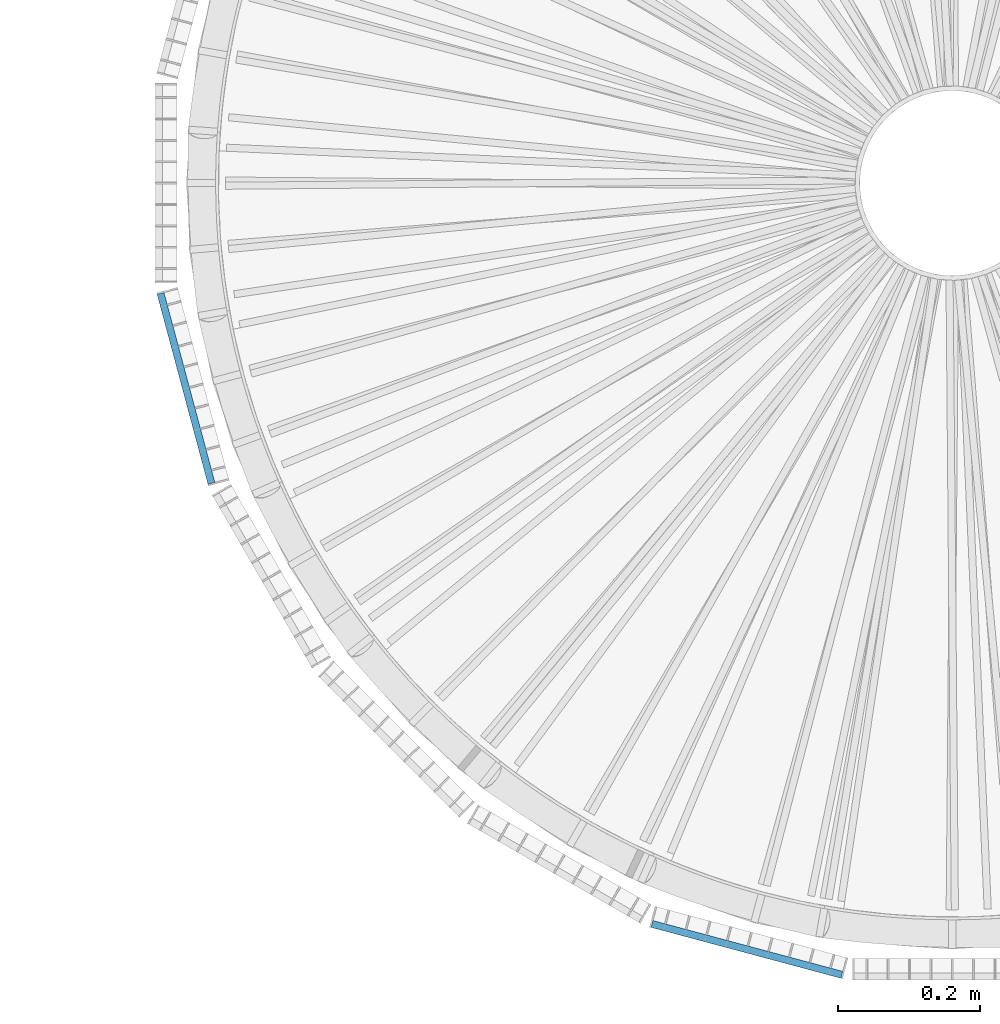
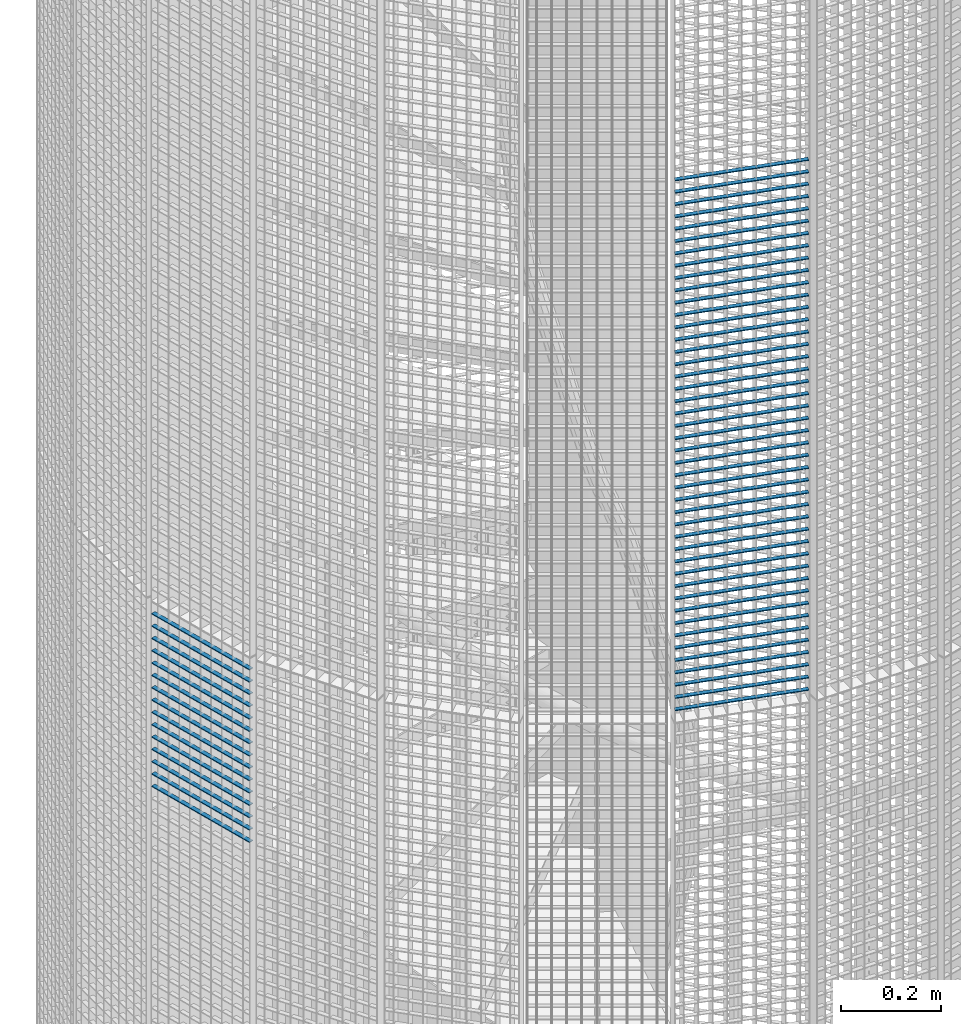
# One storey, part 378 of 1183: 59 beams, 2 elements without a shape of their own.
"""IFC2X3 building model written with IfcOpenShell, lengths in millimetres."""

from ifc_helpers import new_model, si_unit, frame, origin_with_axes, origin_2d_with_axis, place, context, subcontext, project, spatial, rectangle, extrude, material, type_object, element, aggregate, save


model = new_model("IFC2X3")

# Units and contexts
model_context = context("Model", 3, precision=1e-05, world=origin_with_axes())
body_context = subcontext(model_context, "Body", "Model", "MODEL_VIEW")
ifc_project = project(units=[si_unit("LENGTHUNIT", "METRE", prefix="MILLI"), si_unit("AREAUNIT", "SQUARE_METRE"), si_unit("VOLUMEUNIT", "CUBIC_METRE"), si_unit("MASSUNIT", "GRAM", prefix="KILO"), si_unit("TIMEUNIT", "SECOND"), si_unit("PLANEANGLEUNIT", "RADIAN"), si_unit("SOLIDANGLEUNIT", "STERADIAN"), si_unit("THERMODYNAMICTEMPERATUREUNIT", "DEGREE_CELSIUS"), si_unit("LUMINOUSINTENSITYUNIT", "LUMEN")], contexts=[model_context])

# Site, building, storey
site_placement = place(None, origin_with_axes())
site = spatial("IfcSite", under=ifc_project, at=site_placement, Name="Undefined", CompositionType="ELEMENT")
building_placement = place(site_placement, origin_with_axes())
building = spatial("IfcBuilding", under=site, at=building_placement, Name="Undefined", CompositionType="ELEMENT")
storey_placement = place(building_placement, origin_with_axes())
storey = spatial("IfcBuildingStorey", under=building, at=storey_placement, Name="Undefined", CompositionType="ELEMENT", Elevation=0.0)

# Assembly, beams
assembly_1_placement = place(storey_placement, origin_with_axes())
assembly_1 = element("IfcElementAssembly", 1, at=assembly_1_placement, inside=storey, Name="BORDURE", AssemblyPlace="NOTDEFINED", PredefinedType="NOTDEFINED")
ifc_material = material(Name="STEEL/S235JR")
beam_type = type_object("IfcBeamType", Name="PL2*10", PredefinedType="NOTDEFINED")
beam_1_placement = place(assembly_1_placement, frame((21445.1040732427, -1111.25508286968, 4320.0), z_axis=(-0.258819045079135, -0.965925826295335, 0.0), x_axis=(-0.965925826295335, 0.258819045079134, 0.0)))
beam_1 = element("IfcBeam", 2, at=beam_1_placement, type_object=beam_type, material=ifc_material, Name="ENTRETOISE", context=body_context, shape_type="SweptSolid", body=[
    extrude(rectangle(XDim=2.0, YDim=10.0, at=origin_2d_with_axis()), frame((275.999999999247, 9.09494701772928e-13, 1.53210777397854e-14), z_axis=(-1.0, 0.0, 0.0), x_axis=(0.0, -1.0, 0.0)), (0.0, 0.0, 1.0), 276.0),
])
beam_2_placement = place(assembly_1_placement, frame((21445.1040732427, -1111.25508286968, 4290.0), z_axis=(-0.258819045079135, -0.965925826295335, 0.0), x_axis=(-0.965925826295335, 0.258819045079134, 0.0)))
beam_2 = element("IfcBeam", 3, at=beam_2_placement, type_object=beam_type, material=ifc_material, Name="ENTRETOISE", context=body_context, shape_type="SweptSolid", body=[
    extrude(rectangle(XDim=2.0, YDim=10.0, at=origin_2d_with_axis()), frame((275.999999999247, 9.09494701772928e-13, 1.53210777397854e-14), z_axis=(-1.0, 0.0, 0.0), x_axis=(0.0, -1.0, 0.0)), (0.0, 0.0, 1.0), 276.0),
])
beam_3_placement = place(assembly_1_placement, frame((21445.1040732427, -1111.25508286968, 4260.0), z_axis=(-0.258819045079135, -0.965925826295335, 0.0), x_axis=(-0.965925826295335, 0.258819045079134, 0.0)))
beam_3 = element("IfcBeam", 4, at=beam_3_placement, type_object=beam_type, material=ifc_material, Name="ENTRETOISE", context=body_context, shape_type="SweptSolid", body=[
    extrude(rectangle(XDim=2.0, YDim=10.0, at=origin_2d_with_axis()), frame((275.999999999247, 9.09494701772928e-13, 1.53210777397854e-14), z_axis=(-1.0, 0.0, 0.0), x_axis=(0.0, -1.0, 0.0)), (0.0, 0.0, 1.0), 276.0),
])
beam_4_placement = place(assembly_1_placement, frame((21445.1040732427, -1111.25508286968, 4230.0), z_axis=(-0.258819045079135, -0.965925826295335, 0.0), x_axis=(-0.965925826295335, 0.258819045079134, 0.0)))
beam_4 = element("IfcBeam", 5, at=beam_4_placement, type_object=beam_type, material=ifc_material, Name="ENTRETOISE", context=body_context, shape_type="SweptSolid", body=[
    extrude(rectangle(XDim=2.0, YDim=10.0, at=origin_2d_with_axis()), frame((275.999999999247, 9.09494701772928e-13, 1.53210777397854e-14), z_axis=(-1.0, 0.0, 0.0), x_axis=(0.0, -1.0, 0.0)), (0.0, 0.0, 1.0), 276.0),
])
beam_5_placement = place(assembly_1_placement, frame((21445.1040732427, -1111.25508286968, 4200.0), z_axis=(-0.258819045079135, -0.965925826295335, 0.0), x_axis=(-0.965925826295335, 0.258819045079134, 0.0)))
beam_5 = element("IfcBeam", 6, at=beam_5_placement, type_object=beam_type, material=ifc_material, Name="ENTRETOISE", context=body_context, shape_type="SweptSolid", body=[
    extrude(rectangle(XDim=2.0, YDim=10.0, at=origin_2d_with_axis()), frame((275.999999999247, 9.09494701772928e-13, 1.53210777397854e-14), z_axis=(-1.0, 0.0, 0.0), x_axis=(0.0, -1.0, 0.0)), (0.0, 0.0, 1.0), 276.0),
])
beam_6_placement = place(assembly_1_placement, frame((21445.1040732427, -1111.25508286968, 4170.0), z_axis=(-0.258819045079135, -0.965925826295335, 0.0), x_axis=(-0.965925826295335, 0.258819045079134, 0.0)))
beam_6 = element("IfcBeam", 7, at=beam_6_placement, type_object=beam_type, material=ifc_material, Name="ENTRETOISE", context=body_context, shape_type="SweptSolid", body=[
    extrude(rectangle(XDim=2.0, YDim=10.0, at=origin_2d_with_axis()), frame((275.999999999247, 9.09494701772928e-13, 1.53210777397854e-14), z_axis=(-1.0, 0.0, 0.0), x_axis=(0.0, -1.0, 0.0)), (0.0, 0.0, 1.0), 276.0),
])
beam_7_placement = place(assembly_1_placement, frame((21445.1040732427, -1111.25508286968, 4140.0), z_axis=(-0.258819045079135, -0.965925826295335, 0.0), x_axis=(-0.965925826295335, 0.258819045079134, 0.0)))
beam_7 = element("IfcBeam", 8, at=beam_7_placement, type_object=beam_type, material=ifc_material, Name="ENTRETOISE", context=body_context, shape_type="SweptSolid", body=[
    extrude(rectangle(XDim=2.0, YDim=10.0, at=origin_2d_with_axis()), frame((275.999999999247, 9.09494701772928e-13, 1.53210777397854e-14), z_axis=(-1.0, 0.0, 0.0), x_axis=(0.0, -1.0, 0.0)), (0.0, 0.0, 1.0), 276.0),
])
beam_8_placement = place(assembly_1_placement, frame((21445.1040732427, -1111.25508286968, 3720.0), z_axis=(-0.258819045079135, -0.965925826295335, 0.0), x_axis=(-0.965925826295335, 0.258819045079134, 0.0)))
beam_8 = element("IfcBeam", 9, at=beam_8_placement, type_object=beam_type, material=ifc_material, Name="ENTRETOISE", context=body_context, shape_type="SweptSolid", body=[
    extrude(rectangle(XDim=2.0, YDim=10.0, at=origin_2d_with_axis()), frame((275.999999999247, 9.09494701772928e-13, 1.53210777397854e-14), z_axis=(-1.0, 0.0, 0.0), x_axis=(0.0, -1.0, 0.0)), (0.0, 0.0, 1.0), 276.0),
])
beam_9_placement = place(assembly_1_placement, frame((21445.1040732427, -1111.25508286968, 3690.0), z_axis=(-0.258819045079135, -0.965925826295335, 0.0), x_axis=(-0.965925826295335, 0.258819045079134, 0.0)))
beam_9 = element("IfcBeam", 10, at=beam_9_placement, type_object=beam_type, material=ifc_material, Name="ENTRETOISE", context=body_context, shape_type="SweptSolid", body=[
    extrude(rectangle(XDim=2.0, YDim=10.0, at=origin_2d_with_axis()), frame((275.999999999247, 9.09494701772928e-13, 1.53210777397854e-14), z_axis=(-1.0, 0.0, 0.0), x_axis=(0.0, -1.0, 0.0)), (0.0, 0.0, 1.0), 276.0),
])
beam_10_placement = place(assembly_1_placement, frame((21445.1040732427, -1111.25508286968, 3750.0), z_axis=(-0.258819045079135, -0.965925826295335, 0.0), x_axis=(-0.965925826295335, 0.258819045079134, 0.0)))
beam_10 = element("IfcBeam", 11, at=beam_10_placement, type_object=beam_type, material=ifc_material, Name="ENTRETOISE", context=body_context, shape_type="SweptSolid", body=[
    extrude(rectangle(XDim=2.0, YDim=10.0, at=origin_2d_with_axis()), frame((275.999999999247, 9.09494701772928e-13, 1.53210777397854e-14), z_axis=(-1.0, 0.0, 0.0), x_axis=(0.0, -1.0, 0.0)), (0.0, 0.0, 1.0), 276.0),
])
beam_11_placement = place(assembly_1_placement, frame((21445.1040732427, -1111.25508286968, 3660.0), z_axis=(-0.258819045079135, -0.965925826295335, 0.0), x_axis=(-0.965925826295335, 0.258819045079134, 0.0)))
beam_11 = element("IfcBeam", 12, at=beam_11_placement, type_object=beam_type, material=ifc_material, Name="ENTRETOISE", context=body_context, shape_type="SweptSolid", body=[
    extrude(rectangle(XDim=2.0, YDim=10.0, at=origin_2d_with_axis()), frame((275.999999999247, 9.09494701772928e-13, 1.53210777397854e-14), z_axis=(-1.0, 0.0, 0.0), x_axis=(0.0, -1.0, 0.0)), (0.0, 0.0, 1.0), 276.0),
])
beam_12_placement = place(assembly_1_placement, frame((21445.1040732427, -1111.25508286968, 3630.0), z_axis=(-0.258819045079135, -0.965925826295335, 0.0), x_axis=(-0.965925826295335, 0.258819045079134, 0.0)))
beam_12 = element("IfcBeam", 13, at=beam_12_placement, type_object=beam_type, material=ifc_material, Name="ENTRETOISE", context=body_context, shape_type="SweptSolid", body=[
    extrude(rectangle(XDim=2.0, YDim=10.0, at=origin_2d_with_axis()), frame((275.999999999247, 9.09494701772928e-13, 1.53210777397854e-14), z_axis=(-1.0, 0.0, 0.0), x_axis=(0.0, -1.0, 0.0)), (0.0, 0.0, 1.0), 276.0),
])
beam_13_placement = place(assembly_1_placement, frame((21445.1040732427, -1111.25508286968, 3780.0), z_axis=(-0.258819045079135, -0.965925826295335, 0.0), x_axis=(-0.965925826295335, 0.258819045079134, 0.0)))
beam_13 = element("IfcBeam", 14, at=beam_13_placement, type_object=beam_type, material=ifc_material, Name="ENTRETOISE", context=body_context, shape_type="SweptSolid", body=[
    extrude(rectangle(XDim=2.0, YDim=10.0, at=origin_2d_with_axis()), frame((275.999999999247, 9.09494701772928e-13, 1.53210777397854e-14), z_axis=(-1.0, 0.0, 0.0), x_axis=(0.0, -1.0, 0.0)), (0.0, 0.0, 1.0), 276.0),
])
beam_14_placement = place(assembly_1_placement, frame((21445.1040732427, -1111.25508286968, 3600.0), z_axis=(-0.258819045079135, -0.965925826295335, 0.0), x_axis=(-0.965925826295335, 0.258819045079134, 0.0)))
beam_14 = element("IfcBeam", 15, at=beam_14_placement, type_object=beam_type, material=ifc_material, Name="ENTRETOISE", context=body_context, shape_type="SweptSolid", body=[
    extrude(rectangle(XDim=2.0, YDim=10.0, at=origin_2d_with_axis()), frame((275.999999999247, 9.09494701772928e-13, 1.53210777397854e-14), z_axis=(-1.0, 0.0, 0.0), x_axis=(0.0, -1.0, 0.0)), (0.0, 0.0, 1.0), 276.0),
])
beam_15_placement = place(assembly_1_placement, frame((21445.1040732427, -1111.25508286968, 3810.0), z_axis=(-0.258819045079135, -0.965925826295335, 0.0), x_axis=(-0.965925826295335, 0.258819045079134, 0.0)))
beam_15 = element("IfcBeam", 16, at=beam_15_placement, type_object=beam_type, material=ifc_material, Name="ENTRETOISE", context=body_context, shape_type="SweptSolid", body=[
    extrude(rectangle(XDim=2.0, YDim=10.0, at=origin_2d_with_axis()), frame((275.999999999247, 9.09494701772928e-13, 1.53210777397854e-14), z_axis=(-1.0, 0.0, 0.0), x_axis=(0.0, -1.0, 0.0)), (0.0, 0.0, 1.0), 276.0),
])
beam_16_placement = place(assembly_1_placement, frame((21445.1040732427, -1111.25508286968, 3570.0), z_axis=(-0.258819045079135, -0.965925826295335, 0.0), x_axis=(-0.965925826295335, 0.258819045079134, 0.0)))
beam_16 = element("IfcBeam", 17, at=beam_16_placement, type_object=beam_type, material=ifc_material, Name="ENTRETOISE", context=body_context, shape_type="SweptSolid", body=[
    extrude(rectangle(XDim=2.0, YDim=10.0, at=origin_2d_with_axis()), frame((275.999999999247, 9.09494701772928e-13, 1.53210777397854e-14), z_axis=(-1.0, 0.0, 0.0), x_axis=(0.0, -1.0, 0.0)), (0.0, 0.0, 1.0), 276.0),
])
beam_17_placement = place(assembly_1_placement, frame((21445.1040732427, -1111.25508286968, 3540.0), z_axis=(-0.258819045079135, -0.965925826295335, 0.0), x_axis=(-0.965925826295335, 0.258819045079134, 0.0)))
beam_17 = element("IfcBeam", 18, at=beam_17_placement, type_object=beam_type, material=ifc_material, Name="ENTRETOISE", context=body_context, shape_type="SweptSolid", body=[
    extrude(rectangle(XDim=2.0, YDim=10.0, at=origin_2d_with_axis()), frame((275.999999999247, 9.09494701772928e-13, 1.53210777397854e-14), z_axis=(-1.0, 0.0, 0.0), x_axis=(0.0, -1.0, 0.0)), (0.0, 0.0, 1.0), 276.0),
])
beam_18_placement = place(assembly_1_placement, frame((21445.1040732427, -1111.25508286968, 3840.0), z_axis=(-0.258819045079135, -0.965925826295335, 0.0), x_axis=(-0.965925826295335, 0.258819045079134, 0.0)))
beam_18 = element("IfcBeam", 19, at=beam_18_placement, type_object=beam_type, material=ifc_material, Name="ENTRETOISE", context=body_context, shape_type="SweptSolid", body=[
    extrude(rectangle(XDim=2.0, YDim=10.0, at=origin_2d_with_axis()), frame((275.999999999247, 9.09494701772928e-13, 1.53210777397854e-14), z_axis=(-1.0, 0.0, 0.0), x_axis=(0.0, -1.0, 0.0)), (0.0, 0.0, 1.0), 276.0),
])
beam_19_placement = place(assembly_1_placement, frame((21445.1040732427, -1111.25508286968, 3510.0), z_axis=(-0.258819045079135, -0.965925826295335, 0.0), x_axis=(-0.965925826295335, 0.258819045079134, 0.0)))
beam_19 = element("IfcBeam", 20, at=beam_19_placement, type_object=beam_type, material=ifc_material, Name="ENTRETOISE", context=body_context, shape_type="SweptSolid", body=[
    extrude(rectangle(XDim=2.0, YDim=10.0, at=origin_2d_with_axis()), frame((275.999999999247, 9.09494701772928e-13, 1.53210777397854e-14), z_axis=(-1.0, 0.0, 0.0), x_axis=(0.0, -1.0, 0.0)), (0.0, 0.0, 1.0), 276.0),
])
beam_20_placement = place(assembly_1_placement, frame((21445.1040732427, -1111.25508286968, 3480.0), z_axis=(-0.258819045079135, -0.965925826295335, 0.0), x_axis=(-0.965925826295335, 0.258819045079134, 0.0)))
beam_20 = element("IfcBeam", 21, at=beam_20_placement, type_object=beam_type, material=ifc_material, Name="ENTRETOISE", context=body_context, shape_type="SweptSolid", body=[
    extrude(rectangle(XDim=2.0, YDim=10.0, at=origin_2d_with_axis()), frame((275.999999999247, 9.09494701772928e-13, 1.53210777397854e-14), z_axis=(-1.0, 0.0, 0.0), x_axis=(0.0, -1.0, 0.0)), (0.0, 0.0, 1.0), 276.0),
])
beam_21_placement = place(assembly_1_placement, frame((21445.1040732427, -1111.25508286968, 3870.0), z_axis=(-0.258819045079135, -0.965925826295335, 0.0), x_axis=(-0.965925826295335, 0.258819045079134, 0.0)))
beam_21 = element("IfcBeam", 22, at=beam_21_placement, type_object=beam_type, material=ifc_material, Name="ENTRETOISE", context=body_context, shape_type="SweptSolid", body=[
    extrude(rectangle(XDim=2.0, YDim=10.0, at=origin_2d_with_axis()), frame((275.999999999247, 9.09494701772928e-13, 1.53210777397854e-14), z_axis=(-1.0, 0.0, 0.0), x_axis=(0.0, -1.0, 0.0)), (0.0, 0.0, 1.0), 276.0),
])
beam_22_placement = place(assembly_1_placement, frame((21445.1040732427, -1111.25508286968, 3450.0), z_axis=(-0.258819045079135, -0.965925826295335, 0.0), x_axis=(-0.965925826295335, 0.258819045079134, 0.0)))
beam_22 = element("IfcBeam", 23, at=beam_22_placement, type_object=beam_type, material=ifc_material, Name="ENTRETOISE", context=body_context, shape_type="SweptSolid", body=[
    extrude(rectangle(XDim=2.0, YDim=10.0, at=origin_2d_with_axis()), frame((275.999999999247, 9.09494701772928e-13, 1.53210777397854e-14), z_axis=(-1.0, 0.0, 0.0), x_axis=(0.0, -1.0, 0.0)), (0.0, 0.0, 1.0), 276.0),
])
beam_23_placement = place(assembly_1_placement, frame((21445.1040732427, -1111.25508286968, 3420.0), z_axis=(-0.258819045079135, -0.965925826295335, 0.0), x_axis=(-0.965925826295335, 0.258819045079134, 0.0)))
beam_23 = element("IfcBeam", 24, at=beam_23_placement, type_object=beam_type, material=ifc_material, Name="ENTRETOISE", context=body_context, shape_type="SweptSolid", body=[
    extrude(rectangle(XDim=2.0, YDim=10.0, at=origin_2d_with_axis()), frame((275.999999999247, 9.09494701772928e-13, 1.53210777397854e-14), z_axis=(-1.0, 0.0, 0.0), x_axis=(0.0, -1.0, 0.0)), (0.0, 0.0, 1.0), 276.0),
])
beam_24_placement = place(assembly_1_placement, frame((21445.1040732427, -1111.25508286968, 3900.0), z_axis=(-0.258819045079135, -0.965925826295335, 0.0), x_axis=(-0.965925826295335, 0.258819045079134, 0.0)))
beam_24 = element("IfcBeam", 25, at=beam_24_placement, type_object=beam_type, material=ifc_material, Name="ENTRETOISE", context=body_context, shape_type="SweptSolid", body=[
    extrude(rectangle(XDim=2.0, YDim=10.0, at=origin_2d_with_axis()), frame((275.999999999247, 9.09494701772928e-13, 1.53210777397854e-14), z_axis=(-1.0, 0.0, 0.0), x_axis=(0.0, -1.0, 0.0)), (0.0, 0.0, 1.0), 276.0),
])
beam_25_placement = place(assembly_1_placement, frame((21445.1040732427, -1111.25508286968, 3390.0), z_axis=(-0.258819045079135, -0.965925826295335, 0.0), x_axis=(-0.965925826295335, 0.258819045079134, 0.0)))
beam_25 = element("IfcBeam", 26, at=beam_25_placement, type_object=beam_type, material=ifc_material, Name="ENTRETOISE", context=body_context, shape_type="SweptSolid", body=[
    extrude(rectangle(XDim=2.0, YDim=10.0, at=origin_2d_with_axis()), frame((275.999999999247, 9.09494701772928e-13, 1.53210777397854e-14), z_axis=(-1.0, 0.0, 0.0), x_axis=(0.0, -1.0, 0.0)), (0.0, 0.0, 1.0), 276.0),
])
beam_26_placement = place(assembly_1_placement, frame((21445.1040732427, -1111.25508286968, 3930.0), z_axis=(-0.258819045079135, -0.965925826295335, 0.0), x_axis=(-0.965925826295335, 0.258819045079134, 0.0)))
beam_26 = element("IfcBeam", 27, at=beam_26_placement, type_object=beam_type, material=ifc_material, Name="ENTRETOISE", context=body_context, shape_type="SweptSolid", body=[
    extrude(rectangle(XDim=2.0, YDim=10.0, at=origin_2d_with_axis()), frame((275.999999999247, 9.09494701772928e-13, 1.53210777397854e-14), z_axis=(-1.0, 0.0, 0.0), x_axis=(0.0, -1.0, 0.0)), (0.0, 0.0, 1.0), 276.0),
])
beam_27_placement = place(assembly_1_placement, frame((21445.1040732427, -1111.25508286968, 3360.0), z_axis=(-0.258819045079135, -0.965925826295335, 0.0), x_axis=(-0.965925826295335, 0.258819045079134, 0.0)))
beam_27 = element("IfcBeam", 28, at=beam_27_placement, type_object=beam_type, material=ifc_material, Name="ENTRETOISE", context=body_context, shape_type="SweptSolid", body=[
    extrude(rectangle(XDim=2.0, YDim=10.0, at=origin_2d_with_axis()), frame((275.999999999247, 9.09494701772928e-13, 1.53210777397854e-14), z_axis=(-1.0, 0.0, 0.0), x_axis=(0.0, -1.0, 0.0)), (0.0, 0.0, 1.0), 276.0),
])
beam_28_placement = place(assembly_1_placement, frame((21445.1040732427, -1111.25508286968, 3330.0), z_axis=(-0.258819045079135, -0.965925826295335, 0.0), x_axis=(-0.965925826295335, 0.258819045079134, 0.0)))
beam_28 = element("IfcBeam", 29, at=beam_28_placement, type_object=beam_type, material=ifc_material, Name="ENTRETOISE", context=body_context, shape_type="SweptSolid", body=[
    extrude(rectangle(XDim=2.0, YDim=10.0, at=origin_2d_with_axis()), frame((275.999999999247, 9.09494701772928e-13, 1.53210777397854e-14), z_axis=(-1.0, 0.0, 0.0), x_axis=(0.0, -1.0, 0.0)), (0.0, 0.0, 1.0), 276.0),
])
beam_29_placement = place(assembly_1_placement, frame((21445.1040732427, -1111.25508286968, 3960.0), z_axis=(-0.258819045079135, -0.965925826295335, 0.0), x_axis=(-0.965925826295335, 0.258819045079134, 0.0)))
beam_29 = element("IfcBeam", 30, at=beam_29_placement, type_object=beam_type, material=ifc_material, Name="ENTRETOISE", context=body_context, shape_type="SweptSolid", body=[
    extrude(rectangle(XDim=2.0, YDim=10.0, at=origin_2d_with_axis()), frame((275.999999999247, 9.09494701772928e-13, 1.53210777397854e-14), z_axis=(-1.0, 0.0, 0.0), x_axis=(0.0, -1.0, 0.0)), (0.0, 0.0, 1.0), 276.0),
])
beam_30_placement = place(assembly_1_placement, frame((21445.1040732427, -1111.25508286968, 3300.0), z_axis=(-0.258819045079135, -0.965925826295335, 0.0), x_axis=(-0.965925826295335, 0.258819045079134, 0.0)))
beam_30 = element("IfcBeam", 31, at=beam_30_placement, type_object=beam_type, material=ifc_material, Name="ENTRETOISE", context=body_context, shape_type="SweptSolid", body=[
    extrude(rectangle(XDim=2.0, YDim=10.0, at=origin_2d_with_axis()), frame((275.999999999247, 9.09494701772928e-13, 1.53210777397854e-14), z_axis=(-1.0, 0.0, 0.0), x_axis=(0.0, -1.0, 0.0)), (0.0, 0.0, 1.0), 276.0),
])
beam_31_placement = place(assembly_1_placement, frame((21445.1040732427, -1111.25508286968, 3270.0), z_axis=(-0.258819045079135, -0.965925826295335, 0.0), x_axis=(-0.965925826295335, 0.258819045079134, 0.0)))
beam_31 = element("IfcBeam", 32, at=beam_31_placement, type_object=beam_type, material=ifc_material, Name="ENTRETOISE", context=body_context, shape_type="SweptSolid", body=[
    extrude(rectangle(XDim=2.0, YDim=10.0, at=origin_2d_with_axis()), frame((275.999999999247, 9.09494701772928e-13, 1.53210777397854e-14), z_axis=(-1.0, 0.0, 0.0), x_axis=(0.0, -1.0, 0.0)), (0.0, 0.0, 1.0), 276.0),
])
beam_32_placement = place(assembly_1_placement, frame((21445.1040732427, -1111.25508286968, 3990.0), z_axis=(-0.258819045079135, -0.965925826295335, 0.0), x_axis=(-0.965925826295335, 0.258819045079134, 0.0)))
beam_32 = element("IfcBeam", 33, at=beam_32_placement, type_object=beam_type, material=ifc_material, Name="ENTRETOISE", context=body_context, shape_type="SweptSolid", body=[
    extrude(rectangle(XDim=2.0, YDim=10.0, at=origin_2d_with_axis()), frame((275.999999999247, 9.09494701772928e-13, 1.53210777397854e-14), z_axis=(-1.0, 0.0, 0.0), x_axis=(0.0, -1.0, 0.0)), (0.0, 0.0, 1.0), 276.0),
])
beam_33_placement = place(assembly_1_placement, frame((21445.1040732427, -1111.25508286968, 3240.0), z_axis=(-0.258819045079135, -0.965925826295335, 0.0), x_axis=(-0.965925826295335, 0.258819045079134, 0.0)))
beam_33 = element("IfcBeam", 34, at=beam_33_placement, type_object=beam_type, material=ifc_material, Name="ENTRETOISE", context=body_context, shape_type="SweptSolid", body=[
    extrude(rectangle(XDim=2.0, YDim=10.0, at=origin_2d_with_axis()), frame((275.999999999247, 9.09494701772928e-13, 1.53210777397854e-14), z_axis=(-1.0, 0.0, 0.0), x_axis=(0.0, -1.0, 0.0)), (0.0, 0.0, 1.0), 276.0),
])
beam_34_placement = place(assembly_1_placement, frame((21445.1040732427, -1111.25508286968, 4020.0), z_axis=(-0.258819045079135, -0.965925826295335, 0.0), x_axis=(-0.965925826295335, 0.258819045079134, 0.0)))
beam_34 = element("IfcBeam", 35, at=beam_34_placement, type_object=beam_type, material=ifc_material, Name="ENTRETOISE", context=body_context, shape_type="SweptSolid", body=[
    extrude(rectangle(XDim=2.0, YDim=10.0, at=origin_2d_with_axis()), frame((275.999999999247, 9.09494701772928e-13, 1.53210777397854e-14), z_axis=(-1.0, 0.0, 0.0), x_axis=(0.0, -1.0, 0.0)), (0.0, 0.0, 1.0), 276.0),
])
beam_35_placement = place(assembly_1_placement, frame((21445.1040732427, -1111.25508286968, 3210.0), z_axis=(-0.258819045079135, -0.965925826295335, 0.0), x_axis=(-0.965925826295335, 0.258819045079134, 0.0)))
beam_35 = element("IfcBeam", 36, at=beam_35_placement, type_object=beam_type, material=ifc_material, Name="ENTRETOISE", context=body_context, shape_type="SweptSolid", body=[
    extrude(rectangle(XDim=2.0, YDim=10.0, at=origin_2d_with_axis()), frame((275.999999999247, 9.09494701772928e-13, 1.53210777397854e-14), z_axis=(-1.0, 0.0, 0.0), x_axis=(0.0, -1.0, 0.0)), (0.0, 0.0, 1.0), 276.0),
])
beam_36_placement = place(assembly_1_placement, frame((21445.1040732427, -1111.25508286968, 3180.0), z_axis=(-0.258819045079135, -0.965925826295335, 0.0), x_axis=(-0.965925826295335, 0.258819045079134, 0.0)))
beam_36 = element("IfcBeam", 37, at=beam_36_placement, type_object=beam_type, material=ifc_material, Name="ENTRETOISE", context=body_context, shape_type="SweptSolid", body=[
    extrude(rectangle(XDim=2.0, YDim=10.0, at=origin_2d_with_axis()), frame((275.999999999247, 9.09494701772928e-13, 1.53210777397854e-14), z_axis=(-1.0, 0.0, 0.0), x_axis=(0.0, -1.0, 0.0)), (0.0, 0.0, 1.0), 276.0),
])
beam_37_placement = place(assembly_1_placement, frame((21445.1040732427, -1111.25508286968, 4050.0), z_axis=(-0.258819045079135, -0.965925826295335, 0.0), x_axis=(-0.965925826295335, 0.258819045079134, 0.0)))
beam_37 = element("IfcBeam", 38, at=beam_37_placement, type_object=beam_type, material=ifc_material, Name="ENTRETOISE", context=body_context, shape_type="SweptSolid", body=[
    extrude(rectangle(XDim=2.0, YDim=10.0, at=origin_2d_with_axis()), frame((275.999999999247, 9.09494701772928e-13, 1.53210777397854e-14), z_axis=(-1.0, 0.0, 0.0), x_axis=(0.0, -1.0, 0.0)), (0.0, 0.0, 1.0), 276.0),
])
beam_38_placement = place(assembly_1_placement, frame((21445.1040732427, -1111.25508286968, 3150.0), z_axis=(-0.258819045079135, -0.965925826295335, 0.0), x_axis=(-0.965925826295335, 0.258819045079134, 0.0)))
beam_38 = element("IfcBeam", 39, at=beam_38_placement, type_object=beam_type, material=ifc_material, Name="ENTRETOISE", context=body_context, shape_type="SweptSolid", body=[
    extrude(rectangle(XDim=2.0, YDim=10.0, at=origin_2d_with_axis()), frame((275.999999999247, 9.09494701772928e-13, 1.53210777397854e-14), z_axis=(-1.0, 0.0, 0.0), x_axis=(0.0, -1.0, 0.0)), (0.0, 0.0, 1.0), 276.0),
])
beam_39_placement = place(assembly_1_placement, frame((21445.1040732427, -1111.25508286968, 3120.0), z_axis=(-0.258819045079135, -0.965925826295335, 0.0), x_axis=(-0.965925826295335, 0.258819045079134, 0.0)))
beam_39 = element("IfcBeam", 40, at=beam_39_placement, type_object=beam_type, material=ifc_material, Name="ENTRETOISE", context=body_context, shape_type="SweptSolid", body=[
    extrude(rectangle(XDim=2.0, YDim=10.0, at=origin_2d_with_axis()), frame((275.999999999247, 9.09494701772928e-13, 1.53210777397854e-14), z_axis=(-1.0, 0.0, 0.0), x_axis=(0.0, -1.0, 0.0)), (0.0, 0.0, 1.0), 276.0),
])
beam_40_placement = place(assembly_1_placement, frame((21445.1040732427, -1111.25508286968, 4080.0), z_axis=(-0.258819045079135, -0.965925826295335, 0.0), x_axis=(-0.965925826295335, 0.258819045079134, 0.0)))
beam_40 = element("IfcBeam", 41, at=beam_40_placement, type_object=beam_type, material=ifc_material, Name="ENTRETOISE", context=body_context, shape_type="SweptSolid", body=[
    extrude(rectangle(XDim=2.0, YDim=10.0, at=origin_2d_with_axis()), frame((275.999999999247, 9.09494701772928e-13, 1.53210777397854e-14), z_axis=(-1.0, 0.0, 0.0), x_axis=(0.0, -1.0, 0.0)), (0.0, 0.0, 1.0), 276.0),
])
beam_41_placement = place(assembly_1_placement, frame((21445.1040732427, -1111.25508286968, 3090.0), z_axis=(-0.258819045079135, -0.965925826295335, 0.0), x_axis=(-0.965925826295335, 0.258819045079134, 0.0)))
beam_41 = element("IfcBeam", 42, at=beam_41_placement, type_object=beam_type, material=ifc_material, Name="ENTRETOISE", context=body_context, shape_type="SweptSolid", body=[
    extrude(rectangle(XDim=2.0, YDim=10.0, at=origin_2d_with_axis()), frame((275.999999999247, 9.09494701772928e-13, 1.53210777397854e-14), z_axis=(-1.0, 0.0, 0.0), x_axis=(0.0, -1.0, 0.0)), (0.0, 0.0, 1.0), 276.0),
])
beam_42_placement = place(assembly_1_placement, frame((21445.1040732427, -1111.25508286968, 3060.0), z_axis=(-0.258819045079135, -0.965925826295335, 0.0), x_axis=(-0.965925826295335, 0.258819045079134, 0.0)))
beam_42 = element("IfcBeam", 43, at=beam_42_placement, type_object=beam_type, material=ifc_material, Name="ENTRETOISE", context=body_context, shape_type="SweptSolid", body=[
    extrude(rectangle(XDim=2.0, YDim=10.0, at=origin_2d_with_axis()), frame((275.999999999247, 9.09494701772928e-13, 1.53210777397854e-14), z_axis=(-1.0, 0.0, 0.0), x_axis=(0.0, -1.0, 0.0)), (0.0, 0.0, 1.0), 276.0),
])
beam_43_placement = place(assembly_1_placement, frame((21445.1040732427, -1111.25508286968, 4110.0), z_axis=(-0.258819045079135, -0.965925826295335, 0.0), x_axis=(-0.965925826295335, 0.258819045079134, 0.0)))
beam_43 = element("IfcBeam", 44, at=beam_43_placement, type_object=beam_type, material=ifc_material, Name="ENTRETOISE", context=body_context, shape_type="SweptSolid", body=[
    extrude(rectangle(XDim=2.0, YDim=10.0, at=origin_2d_with_axis()), frame((275.999999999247, 9.09494701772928e-13, 1.53210777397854e-14), z_axis=(-1.0, 0.0, 0.0), x_axis=(0.0, -1.0, 0.0)), (0.0, 0.0, 1.0), 276.0),
])
beam_44_placement = place(assembly_1_placement, frame((21445.1040732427, -1111.25508286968, 3030.0), z_axis=(-0.258819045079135, -0.965925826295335, 0.0), x_axis=(-0.965925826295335, 0.258819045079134, 0.0)))
beam_44 = element("IfcBeam", 45, at=beam_44_placement, type_object=beam_type, material=ifc_material, Name="ENTRETOISE", context=body_context, shape_type="SweptSolid", body=[
    extrude(rectangle(XDim=2.0, YDim=10.0, at=origin_2d_with_axis()), frame((275.999999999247, 9.09494701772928e-13, 1.53210777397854e-14), z_axis=(-1.0, 0.0, 0.0), x_axis=(0.0, -1.0, 0.0)), (0.0, 0.0, 1.0), 276.0),
])
aggregate(assembly_1, [beam_1, beam_2, beam_3, beam_4, beam_5, beam_6, beam_7, beam_8, beam_9, beam_10, beam_11, beam_12, beam_13, beam_14, beam_15, beam_16, beam_17, beam_18, beam_19, beam_20, beam_21, beam_22, beam_23, beam_24, beam_25, beam_26, beam_27, beam_28, beam_29, beam_30, beam_31, beam_32, beam_33, beam_34, beam_35, beam_36, beam_37, beam_38, beam_39, beam_40, beam_41, beam_42, beam_43, beam_44])

assembly_2_placement = place(storey_placement, origin_with_axes())
assembly_2 = element("IfcElementAssembly", 46, at=assembly_2_placement, inside=storey, Name="BORDURE", AssemblyPlace="NOTDEFINED", PredefinedType="NOTDEFINED")
beam_45_placement = place(assembly_2_placement, frame((20560.1769047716, -421.483733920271, 2970.0), z_axis=(-0.965925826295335, -0.258819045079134, 0.0), x_axis=(-0.258819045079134, 0.965925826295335, 0.0)))
beam_45 = element("IfcBeam", 47, at=beam_45_placement, type_object=beam_type, material=ifc_material, Name="ENTRETOISE", context=body_context, shape_type="SweptSolid", body=[
    extrude(rectangle(XDim=2.0, YDim=10.0, at=origin_2d_with_axis()), frame((275.999999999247, 9.09494701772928e-13, 1.53210777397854e-14), z_axis=(-1.0, 0.0, 0.0), x_axis=(0.0, -1.0, 0.0)), (0.0, 0.0, 1.0), 276.0),
])
beam_46_placement = place(assembly_2_placement, frame((20560.1769047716, -421.483733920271, 2940.0), z_axis=(-0.965925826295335, -0.258819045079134, 0.0), x_axis=(-0.258819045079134, 0.965925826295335, 0.0)))
beam_46 = element("IfcBeam", 48, at=beam_46_placement, type_object=beam_type, material=ifc_material, Name="ENTRETOISE", context=body_context, shape_type="SweptSolid", body=[
    extrude(rectangle(XDim=2.0, YDim=10.0, at=origin_2d_with_axis()), frame((275.999999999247, 9.09494701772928e-13, 1.53210777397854e-14), z_axis=(-1.0, 0.0, 0.0), x_axis=(0.0, -1.0, 0.0)), (0.0, 0.0, 1.0), 276.0),
])
beam_47_placement = place(assembly_2_placement, frame((20560.1769047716, -421.483733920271, 2910.0), z_axis=(-0.965925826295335, -0.258819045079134, 0.0), x_axis=(-0.258819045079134, 0.965925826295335, 0.0)))
beam_47 = element("IfcBeam", 49, at=beam_47_placement, type_object=beam_type, material=ifc_material, Name="ENTRETOISE", context=body_context, shape_type="SweptSolid", body=[
    extrude(rectangle(XDim=2.0, YDim=10.0, at=origin_2d_with_axis()), frame((275.999999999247, 9.09494701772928e-13, 1.53210777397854e-14), z_axis=(-1.0, 0.0, 0.0), x_axis=(0.0, -1.0, 0.0)), (0.0, 0.0, 1.0), 276.0),
])
beam_48_placement = place(assembly_2_placement, frame((20560.1769047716, -421.483733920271, 2880.0), z_axis=(-0.965925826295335, -0.258819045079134, 0.0), x_axis=(-0.258819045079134, 0.965925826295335, 0.0)))
beam_48 = element("IfcBeam", 50, at=beam_48_placement, type_object=beam_type, material=ifc_material, Name="ENTRETOISE", context=body_context, shape_type="SweptSolid", body=[
    extrude(rectangle(XDim=2.0, YDim=10.0, at=origin_2d_with_axis()), frame((275.999999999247, 9.09494701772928e-13, 1.53210777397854e-14), z_axis=(-1.0, 0.0, 0.0), x_axis=(0.0, -1.0, 0.0)), (0.0, 0.0, 1.0), 276.0),
])
beam_49_placement = place(assembly_2_placement, frame((20560.1769047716, -421.483733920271, 2850.0), z_axis=(-0.965925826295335, -0.258819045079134, 0.0), x_axis=(-0.258819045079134, 0.965925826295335, 0.0)))
beam_49 = element("IfcBeam", 51, at=beam_49_placement, type_object=beam_type, material=ifc_material, Name="ENTRETOISE", context=body_context, shape_type="SweptSolid", body=[
    extrude(rectangle(XDim=2.0, YDim=10.0, at=origin_2d_with_axis()), frame((275.999999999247, 9.09494701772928e-13, 1.53210777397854e-14), z_axis=(-1.0, 0.0, 0.0), x_axis=(0.0, -1.0, 0.0)), (0.0, 0.0, 1.0), 276.0),
])
beam_50_placement = place(assembly_2_placement, frame((20560.1769047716, -421.483733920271, 2820.0), z_axis=(-0.965925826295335, -0.258819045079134, 0.0), x_axis=(-0.258819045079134, 0.965925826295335, 0.0)))
beam_50 = element("IfcBeam", 52, at=beam_50_placement, type_object=beam_type, material=ifc_material, Name="ENTRETOISE", context=body_context, shape_type="SweptSolid", body=[
    extrude(rectangle(XDim=2.0, YDim=10.0, at=origin_2d_with_axis()), frame((275.999999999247, 9.09494701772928e-13, 1.53210777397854e-14), z_axis=(-1.0, 0.0, 0.0), x_axis=(0.0, -1.0, 0.0)), (0.0, 0.0, 1.0), 276.0),
])
beam_51_placement = place(assembly_2_placement, frame((20560.1769047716, -421.483733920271, 2790.0), z_axis=(-0.965925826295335, -0.258819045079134, 0.0), x_axis=(-0.258819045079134, 0.965925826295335, 0.0)))
beam_51 = element("IfcBeam", 53, at=beam_51_placement, type_object=beam_type, material=ifc_material, Name="ENTRETOISE", context=body_context, shape_type="SweptSolid", body=[
    extrude(rectangle(XDim=2.0, YDim=10.0, at=origin_2d_with_axis()), frame((275.999999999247, 9.09494701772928e-13, 1.53210777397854e-14), z_axis=(-1.0, 0.0, 0.0), x_axis=(0.0, -1.0, 0.0)), (0.0, 0.0, 1.0), 276.0),
])
beam_52_placement = place(assembly_2_placement, frame((20560.1769047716, -421.483733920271, 2760.0), z_axis=(-0.965925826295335, -0.258819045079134, 0.0), x_axis=(-0.258819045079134, 0.965925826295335, 0.0)))
beam_52 = element("IfcBeam", 54, at=beam_52_placement, type_object=beam_type, material=ifc_material, Name="ENTRETOISE", context=body_context, shape_type="SweptSolid", body=[
    extrude(rectangle(XDim=2.0, YDim=10.0, at=origin_2d_with_axis()), frame((275.999999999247, 9.09494701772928e-13, 1.53210777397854e-14), z_axis=(-1.0, 0.0, 0.0), x_axis=(0.0, -1.0, 0.0)), (0.0, 0.0, 1.0), 276.0),
])
beam_53_placement = place(assembly_2_placement, frame((20560.1769047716, -421.48373392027, 2730.0), z_axis=(-0.965925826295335, -0.258819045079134, 0.0), x_axis=(-0.258819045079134, 0.965925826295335, 0.0)))
beam_53 = element("IfcBeam", 55, at=beam_53_placement, type_object=beam_type, material=ifc_material, Name="ENTRETOISE", context=body_context, shape_type="SweptSolid", body=[
    extrude(rectangle(XDim=2.0, YDim=10.0, at=origin_2d_with_axis()), frame((275.999999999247, 9.09494701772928e-13, 1.53210777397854e-14), z_axis=(-1.0, 0.0, 0.0), x_axis=(0.0, -1.0, 0.0)), (0.0, 0.0, 1.0), 276.0),
])
beam_54_placement = place(assembly_2_placement, frame((20560.1769047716, -421.48373392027, 2700.0), z_axis=(-0.965925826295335, -0.258819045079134, 0.0), x_axis=(-0.258819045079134, 0.965925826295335, 0.0)))
beam_54 = element("IfcBeam", 56, at=beam_54_placement, type_object=beam_type, material=ifc_material, Name="ENTRETOISE", context=body_context, shape_type="SweptSolid", body=[
    extrude(rectangle(XDim=2.0, YDim=10.0, at=origin_2d_with_axis()), frame((275.999999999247, 9.09494701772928e-13, 1.53210777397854e-14), z_axis=(-1.0, 0.0, 0.0), x_axis=(0.0, -1.0, 0.0)), (0.0, 0.0, 1.0), 276.0),
])
beam_55_placement = place(assembly_2_placement, frame((20560.1769047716, -421.48373392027, 2670.0), z_axis=(-0.965925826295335, -0.258819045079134, 0.0), x_axis=(-0.258819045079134, 0.965925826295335, 0.0)))
beam_55 = element("IfcBeam", 57, at=beam_55_placement, type_object=beam_type, material=ifc_material, Name="ENTRETOISE", context=body_context, shape_type="SweptSolid", body=[
    extrude(rectangle(XDim=2.0, YDim=10.0, at=origin_2d_with_axis()), frame((275.999999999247, 9.09494701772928e-13, 1.53210777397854e-14), z_axis=(-1.0, 0.0, 0.0), x_axis=(0.0, -1.0, 0.0)), (0.0, 0.0, 1.0), 276.0),
])
beam_56_placement = place(assembly_2_placement, frame((20560.1769047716, -421.48373392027, 2640.0), z_axis=(-0.965925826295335, -0.258819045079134, 0.0), x_axis=(-0.258819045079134, 0.965925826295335, 0.0)))
beam_56 = element("IfcBeam", 58, at=beam_56_placement, type_object=beam_type, material=ifc_material, Name="ENTRETOISE", context=body_context, shape_type="SweptSolid", body=[
    extrude(rectangle(XDim=2.0, YDim=10.0, at=origin_2d_with_axis()), frame((275.999999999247, 9.09494701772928e-13, 1.53210777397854e-14), z_axis=(-1.0, 0.0, 0.0), x_axis=(0.0, -1.0, 0.0)), (0.0, 0.0, 1.0), 276.0),
])
beam_57_placement = place(assembly_2_placement, frame((20560.1769047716, -421.48373392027, 2610.0), z_axis=(-0.965925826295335, -0.258819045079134, 0.0), x_axis=(-0.258819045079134, 0.965925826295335, 0.0)))
beam_57 = element("IfcBeam", 59, at=beam_57_placement, type_object=beam_type, material=ifc_material, Name="ENTRETOISE", context=body_context, shape_type="SweptSolid", body=[
    extrude(rectangle(XDim=2.0, YDim=10.0, at=origin_2d_with_axis()), frame((275.999999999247, 9.09494701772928e-13, 1.53210777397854e-14), z_axis=(-1.0, 0.0, 0.0), x_axis=(0.0, -1.0, 0.0)), (0.0, 0.0, 1.0), 276.0),
])
beam_58_placement = place(assembly_2_placement, frame((20560.1769047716, -421.48373392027, 2580.0), z_axis=(-0.965925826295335, -0.258819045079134, 0.0), x_axis=(-0.258819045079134, 0.965925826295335, 0.0)))
beam_58 = element("IfcBeam", 60, at=beam_58_placement, type_object=beam_type, material=ifc_material, Name="ENTRETOISE", context=body_context, shape_type="SweptSolid", body=[
    extrude(rectangle(XDim=2.0, YDim=10.0, at=origin_2d_with_axis()), frame((275.999999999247, 9.09494701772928e-13, 1.53210777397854e-14), z_axis=(-1.0, 0.0, 0.0), x_axis=(0.0, -1.0, 0.0)), (0.0, 0.0, 1.0), 276.0),
])
beam_59_placement = place(assembly_2_placement, frame((20560.1769047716, -421.48373392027, 2550.0), z_axis=(-0.965925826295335, -0.258819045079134, 0.0), x_axis=(-0.258819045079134, 0.965925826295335, 0.0)))
beam_59 = element("IfcBeam", 61, at=beam_59_placement, type_object=beam_type, material=ifc_material, Name="ENTRETOISE", context=body_context, shape_type="SweptSolid", body=[
    extrude(rectangle(XDim=2.0, YDim=10.0, at=origin_2d_with_axis()), frame((275.999999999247, 9.09494701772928e-13, 1.53210777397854e-14), z_axis=(-1.0, 0.0, 0.0), x_axis=(0.0, -1.0, 0.0)), (0.0, 0.0, 1.0), 276.0),
])
aggregate(assembly_2, [beam_45, beam_46, beam_47, beam_48, beam_49, beam_50, beam_51, beam_52, beam_53, beam_54, beam_55, beam_56, beam_57, beam_58, beam_59])

save(model, "model.ifc")
